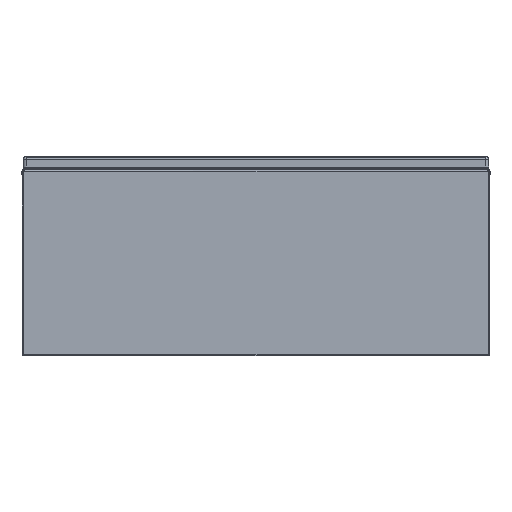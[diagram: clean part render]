
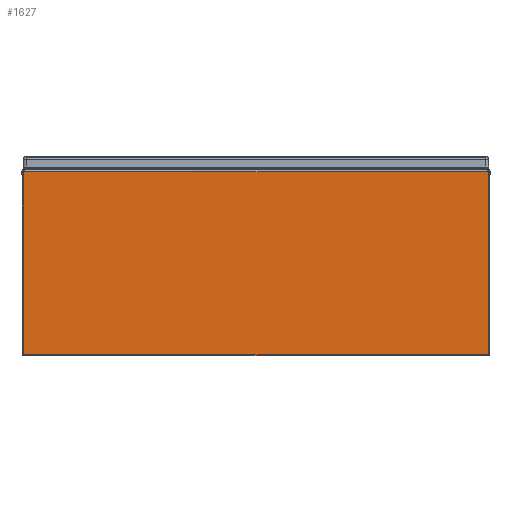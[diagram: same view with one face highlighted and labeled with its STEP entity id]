
A CAD part, front view. The second image highlights one B-rep face of the part: STEP entity #1627.
In plain terms, the highlighted planar face has unit normal (0, -1, 0) as drawn and (0, 0, 1) by its records, which use the part's own axes.
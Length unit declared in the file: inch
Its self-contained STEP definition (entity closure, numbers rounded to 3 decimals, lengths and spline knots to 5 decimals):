
#800 = CARTESIAN_POINT ( 'NONE',  ( -14.90272, 5.821, 0.069 ) ) ;
#868 = CARTESIAN_POINT ( 'NONE',  ( -14.917, -5.83, 0.069 ) ) ;
#1627 = ADVANCED_FACE ( 'NONE', ( #27931 ), #18425, .T. ) ;
#2513 = VERTEX_POINT ( 'NONE', #800 ) ;
#2550 = VERTEX_POINT ( 'NONE', #868 ) ;
#2713 = VERTEX_POINT ( 'NONE', #8932 ) ;
#2792 = VERTEX_POINT ( 'NONE', #8979 ) ;
#2857 = VERTEX_POINT ( 'NONE', #9022 ) ;
#2866 = VERTEX_POINT ( 'NONE', #9028 ) ;
#2867 = VERTEX_POINT ( 'NONE', #9029 ) ;
#2896 = VERTEX_POINT ( 'NONE', #9048 ) ;
#8932 = CARTESIAN_POINT ( 'NONE',  ( -14.83, -5.917, 0.069 ) ) ;
#8979 = CARTESIAN_POINT ( 'NONE',  ( 14.83, -5.917, 0.069 ) ) ;
#9022 = CARTESIAN_POINT ( 'NONE',  ( -14.917, 5.78449, 0.069 ) ) ;
#9028 = CARTESIAN_POINT ( 'NONE',  ( 14.917, 5.78449, 0.069 ) ) ;
#9029 = CARTESIAN_POINT ( 'NONE',  ( 14.917, -5.83, 0.069 ) ) ;
#9048 = CARTESIAN_POINT ( 'NONE',  ( 14.90272, 5.821, 0.069 ) ) ;
#10448 = EDGE_CURVE ( 'NONE', #2896, #2513, #22134, .T. ) ;
#10450 = EDGE_CURVE ( 'NONE', #2792, #2867, #22141, .T. ) ;
#10452 = EDGE_CURVE ( 'NONE', #2866, #2896, #22142, .T. ) ;
#10458 = EDGE_CURVE ( 'NONE', #2513, #2857, #22149, .T. ) ;
#10466 = EDGE_CURVE ( 'NONE', #2867, #2866, #22160, .T. ) ;
#10467 = EDGE_CURVE ( 'NONE', #2713, #2792, #22164, .T. ) ;
#10470 = EDGE_CURVE ( 'NONE', #2857, #2550, #22170, .T. ) ;
#10477 = EDGE_CURVE ( 'NONE', #2550, #2713, #22185, .T. ) ;
#12513 = EDGE_LOOP ( 'NONE', ( #27714, #27715, #27716, #27717, #27718, #27719, #27720, #27721 ) ) ;
#18425 = PLANE ( 'NONE',  #24441 ) ;
#18427 = CARTESIAN_POINT ( 'NONE',  ( -14.917, -5.917, 0.069 ) ) ;
#18520 = DIRECTION ( 'NONE',  ( 0., 0., 1. ) ) ;
#18522 = DIRECTION ( 'NONE',  ( 1., 0., 0. ) ) ;
#22133 = VECTOR ( 'NONE', #23047, 39.37008 ) ;
#22134 = LINE ( 'NONE', #23046, #22133 ) ;
#22141 = CIRCLE ( 'NONE', #25917, 0.087 ) ;
#22142 = LINE ( 'NONE', #23057, #22143 ) ;
#22143 = VECTOR ( 'NONE', #23058, 39.37008 ) ;
#22149 = LINE ( 'NONE', #23088, #22150 ) ;
#22150 = VECTOR ( 'NONE', #23089, 39.37008 ) ;
#22160 = LINE ( 'NONE', #23112, #22161 ) ;
#22161 = VECTOR ( 'NONE', #23113, 39.37008 ) ;
#22164 = LINE ( 'NONE', #23114, #22165 ) ;
#22165 = VECTOR ( 'NONE', #23115, 39.37008 ) ;
#22170 = LINE ( 'NONE', #23120, #22171 ) ;
#22171 = VECTOR ( 'NONE', #23121, 39.37008 ) ;
#22185 = CIRCLE ( 'NONE', #25922, 0.087 ) ;
#23046 = CARTESIAN_POINT ( 'NONE',  ( 14.90272, 5.821, 0.069 ) ) ;
#23047 = DIRECTION ( 'NONE',  ( -1., 0., 0. ) ) ;
#23051 = CARTESIAN_POINT ( 'NONE',  ( 14.83, -5.83, 0.069 ) ) ;
#23053 = DIRECTION ( 'NONE',  ( 0., 0., 1. ) ) ;
#23054 = DIRECTION ( 'NONE',  ( 1., 0., 0. ) ) ;
#23057 = CARTESIAN_POINT ( 'NONE',  ( 14.90272, 5.821, 0.069 ) ) ;
#23058 = DIRECTION ( 'NONE',  ( -0.364, 0.931, 0. ) ) ;
#23088 = CARTESIAN_POINT ( 'NONE',  ( -14.90272, 5.821, 0.069 ) ) ;
#23089 = DIRECTION ( 'NONE',  ( -0.364, -0.931, 0. ) ) ;
#23112 = CARTESIAN_POINT ( 'NONE',  ( 14.917, 5.931, 0.069 ) ) ;
#23113 = DIRECTION ( 'NONE',  ( 0., 1., 0. ) ) ;
#23114 = CARTESIAN_POINT ( 'NONE',  ( -14.917, -5.917, 0.069 ) ) ;
#23115 = DIRECTION ( 'NONE',  ( 1., 0., 0. ) ) ;
#23120 = CARTESIAN_POINT ( 'NONE',  ( -14.917, 5.931, 0.069 ) ) ;
#23121 = DIRECTION ( 'NONE',  ( 0., -1., 0. ) ) ;
#23135 = CARTESIAN_POINT ( 'NONE',  ( -14.83, -5.83, 0.069 ) ) ;
#23137 = DIRECTION ( 'NONE',  ( 0., 0., 1. ) ) ;
#23138 = DIRECTION ( 'NONE',  ( 1., 0., 0. ) ) ;
#24441 = AXIS2_PLACEMENT_3D ( 'NONE', #18427, #18520, #18522 ) ;
#25917 = AXIS2_PLACEMENT_3D ( 'NONE', #23051, #23053, #23054 ) ;
#25922 = AXIS2_PLACEMENT_3D ( 'NONE', #23135, #23137, #23138 ) ;
#27714 = ORIENTED_EDGE ( 'NONE', *, *, #10470, .T. ) ;
#27715 = ORIENTED_EDGE ( 'NONE', *, *, #10477, .T. ) ;
#27716 = ORIENTED_EDGE ( 'NONE', *, *, #10467, .T. ) ;
#27717 = ORIENTED_EDGE ( 'NONE', *, *, #10450, .T. ) ;
#27718 = ORIENTED_EDGE ( 'NONE', *, *, #10466, .T. ) ;
#27719 = ORIENTED_EDGE ( 'NONE', *, *, #10452, .T. ) ;
#27720 = ORIENTED_EDGE ( 'NONE', *, *, #10448, .T. ) ;
#27721 = ORIENTED_EDGE ( 'NONE', *, *, #10458, .T. ) ;
#27931 = FACE_OUTER_BOUND ( 'NONE', #12513, .T. ) ;
